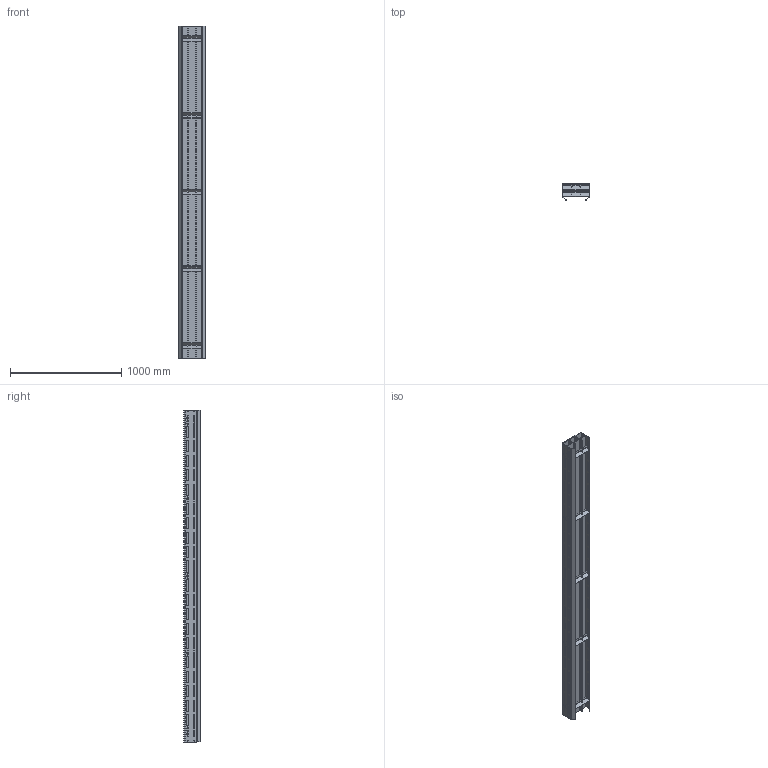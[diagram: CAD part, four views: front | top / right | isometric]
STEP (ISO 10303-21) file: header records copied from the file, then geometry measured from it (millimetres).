
FILE_DESCRIPTION (( 'STEP AP214' ), '1' );
FILE_NAME ('03.102S240.N FS-240-MTS2-100.INOX straight section L=2990.STEP', '2025-02-11T10:16:43', ( '' ), ( '' ), 'SwSTEP 2.0', 'SolidWorks 2024', '' );
FILE_SCHEMA (( 'AUTOMOTIVE_DESIGN' ));
Length unit declared in the file: millimetre
Products named in the file (1): 03.102S240.N FS-240-MTS2-100.INOX straight section L=2990
Bounding box: 244.5 x 145.63 x 2990 mm (x, y, z)
Volume: 16861472.7 mm3; surface area: 6667405.5 mm2
Topology: 20 solids, 20 shells, 1552 faces, 4536 edges, 3024 vertices
Faces by surface type: cylinder 930, plane 622
Entity records: 53706 total; most frequent: DIRECTION 9494, CARTESIAN_POINT 9137, ORIENTED_EDGE 9072, EDGE_CURVE 4536, AXIS2_PLACEMENT_3D 3413, VERTEX_POINT 3024, VECTOR 2668, LINE 2668
